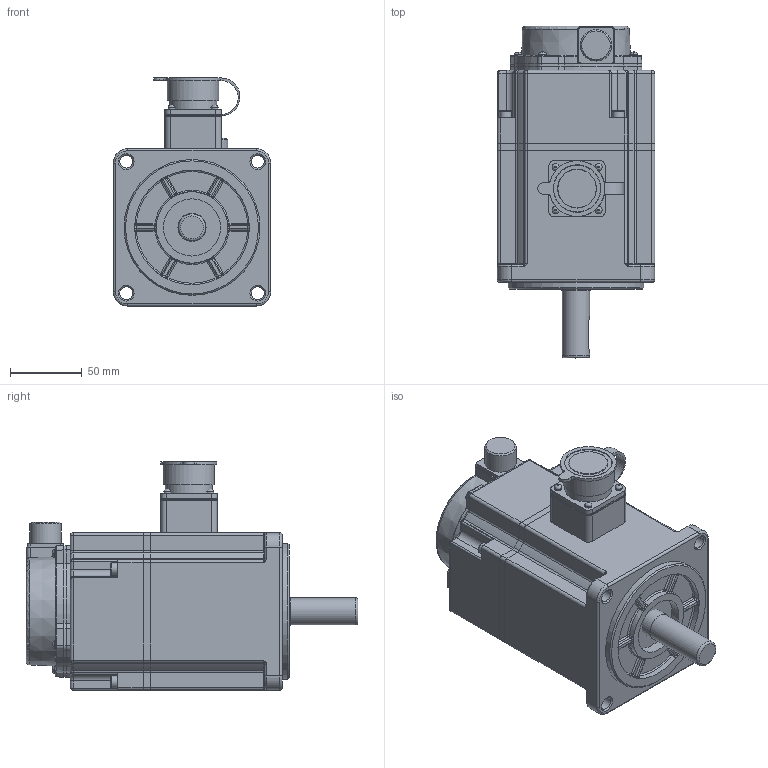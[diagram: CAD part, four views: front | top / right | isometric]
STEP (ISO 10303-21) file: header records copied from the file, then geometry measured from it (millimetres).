
FILE_DESCRIPTION(/* description */ (''),/* implementation_level */ '2;1');
FILE_NAME(/* name */ '磁编4N.stp',/* time_stamp */ '2024-04-19T14:22:26+08:00',/* author */ (''),/* organization */ (''),/* preprocessor_version */ 'ST-DEVELOPER v18.1',/* originating_system */ 'SIEMENS PLM Software NX 2000',/* authorisation */ '');
FILE_SCHEMA (('AUTOMOTIVE_DESIGN { 1 0 10303 214 3 1 1 1 }'));
Length unit declared in the file: millimetre
Products named in the file (1): 92504378DBD25ya7
Bounding box: 110 x 231.99 x 159.5 mm (x, y, z)
Volume: 1757471.5 mm3; surface area: 222601.2 mm2
Topology: 22 solids, 24 shells, 1066 faces, 2511 edges, 1483 vertices
Faces by surface type: cylinder 393, plane 348, torus 104, bspline 93, cone 68, sphere 60
Full cylindrical faces by diameter (mm): 2 x4, 2.5 x8, 4.1 x8, 4.2 x3, 4.826 x4, 5 x10, 5.5 x3, 8.5 x4, 9 x4, 19 x1, 19.6 x1, 20 x1, 22 x1, 22.288 x1, 24.616 x1, 27 x2, 28 x1, 30 x1, 33 x3, 35 x1, 36 x1, 40 x2, 84 x1, 95 x1, 100 x1, 101.4 x1, 104 x3
Entity records: 32381 total; most frequent: CARTESIAN_POINT 8869, DIRECTION 5102, ORIENTED_EDGE 4540, EDGE_CURVE 2270, AXIS2_PLACEMENT_3D 2097, VERTEX_POINT 1431, EDGE_LOOP 1301, CIRCLE 1099
